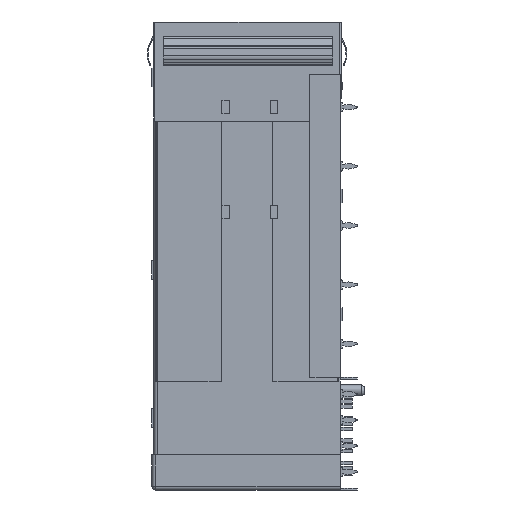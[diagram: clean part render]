
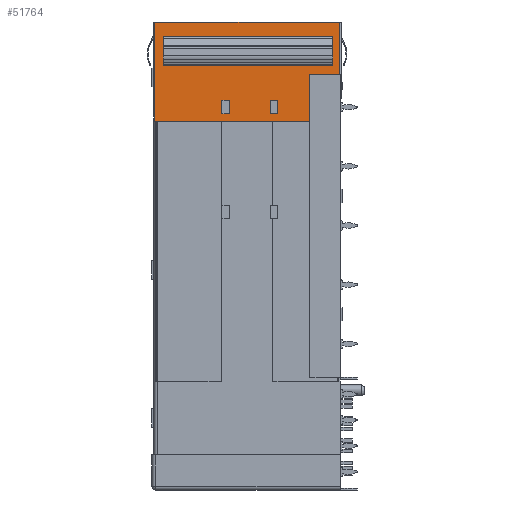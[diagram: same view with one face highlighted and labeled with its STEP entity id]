
A CAD part, left-side view. The second image highlights one B-rep face of the part: STEP entity #51764.
In plain terms, the highlighted planar face has unit normal (-1, 0, 0).
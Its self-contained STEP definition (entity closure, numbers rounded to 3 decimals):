
#845 = CARTESIAN_POINT ( 'NONE',  ( -43., 0.1, -7.1 ) ) ;
#1525 = ORIENTED_EDGE ( 'NONE', *, *, #111672, .T. ) ;
#2620 = LINE ( 'NONE', #36222, #83627 ) ;
#3382 = CARTESIAN_POINT ( 'NONE',  ( -43., 1.05, -1.9 ) ) ;
#4462 = LINE ( 'NONE', #64680, #29182 ) ;
#5061 = CARTESIAN_POINT ( 'NONE',  ( -43., 8.45, -12.4 ) ) ;
#6585 = CARTESIAN_POINT ( 'NONE',  ( -43., 0.1, 0. ) ) ;
#6624 = CARTESIAN_POINT ( 'NONE',  ( -43., 8.45, 0. ) ) ;
#8765 = LINE ( 'NONE', #3382, #117919 ) ;
#9054 = VECTOR ( 'NONE', #136932, 1000. ) ;
#9851 = CARTESIAN_POINT ( 'NONE',  ( -43., 1.05, -2.181 ) ) ;
#10262 = LINE ( 'NONE', #32293, #94586 ) ;
#10356 = DIRECTION ( 'NONE',  ( 0., 0., -1. ) ) ;
#10371 = CARTESIAN_POINT ( 'NONE',  ( -43., 0., -12.4 ) ) ;
#10407 = ORIENTED_EDGE ( 'NONE', *, *, #16029, .T. ) ;
#10843 = VECTOR ( 'NONE', #56871, 1000. ) ;
#11396 = VECTOR ( 'NONE', #105647, 1000. ) ;
#11397 = LINE ( 'NONE', #114168, #60978 ) ;
#11990 = DIRECTION ( 'NONE',  ( 0., 0., -1. ) ) ;
#13822 = LINE ( 'NONE', #10371, #66718 ) ;
#14848 = CARTESIAN_POINT ( 'NONE',  ( -43., 0., -10.6 ) ) ;
#15446 = VERTEX_POINT ( 'NONE', #6585 ) ;
#16029 = EDGE_CURVE ( 'NONE', #133254, #38461, #11397, .T. ) ;
#16864 = DIRECTION ( 'NONE',  ( 0., 0., 1. ) ) ;
#17159 = VERTEX_POINT ( 'NONE', #133704 ) ;
#17256 = DIRECTION ( 'NONE',  ( 0., 0., -1. ) ) ;
#18559 = ORIENTED_EDGE ( 'NONE', *, *, #61867, .T. ) ;
#19581 = EDGE_CURVE ( 'NONE', #26373, #125417, #2620, .T. ) ;
#19903 = EDGE_CURVE ( 'NONE', #15446, #133254, #47158, .T. ) ;
#20134 = EDGE_CURVE ( 'NONE', #136327, #17159, #98331, .T. ) ;
#20731 = FACE_BOUND ( 'NONE', #45606, .T. ) ;
#21011 = DIRECTION ( 'NONE',  ( 0., 1., 0. ) ) ;
#21259 = EDGE_CURVE ( 'NONE', #17159, #71016, #27125, .T. ) ;
#21381 = EDGE_CURVE ( 'NONE', #41201, #39341, #88297, .T. ) ;
#22117 = LINE ( 'NONE', #136570, #131206 ) ;
#22359 = ORIENTED_EDGE ( 'NONE', *, *, #86612, .T. ) ;
#22403 = VECTOR ( 'NONE', #62986, 1000. ) ;
#22708 = CARTESIAN_POINT ( 'NONE',  ( -43., 25.1, -13.4 ) ) ;
#25443 = DIRECTION ( 'NONE',  ( 0., -1., 0. ) ) ;
#26373 = VERTEX_POINT ( 'NONE', #34627 ) ;
#27125 = LINE ( 'NONE', #6624, #80055 ) ;
#29182 = VECTOR ( 'NONE', #11990, 1000. ) ;
#29653 = CARTESIAN_POINT ( 'NONE',  ( -43., 0., -10.6 ) ) ;
#30358 = ORIENTED_EDGE ( 'NONE', *, *, #116990, .T. ) ;
#31453 = AXIS2_PLACEMENT_3D ( 'NONE', #62587, #73654, #10356 ) ;
#31518 = CARTESIAN_POINT ( 'NONE',  ( -43., 25.3, 0. ) ) ;
#32156 = VERTEX_POINT ( 'NONE', #36739 ) ;
#32293 = CARTESIAN_POINT ( 'NONE',  ( -43., 25.2, -13.4 ) ) ;
#32389 = LINE ( 'NONE', #61759, #67179 ) ;
#32999 = LINE ( 'NONE', #69549, #82613 ) ;
#34627 = CARTESIAN_POINT ( 'NONE',  ( -43., 1.05, -1.9 ) ) ;
#36222 = CARTESIAN_POINT ( 'NONE',  ( -43., 1.05, -1.9 ) ) ;
#36532 = CARTESIAN_POINT ( 'NONE',  ( -43., 4.1, 0. ) ) ;
#36739 = CARTESIAN_POINT ( 'NONE',  ( -43., 15., -12.4 ) ) ;
#38461 = VERTEX_POINT ( 'NONE', #22708 ) ;
#39341 = VERTEX_POINT ( 'NONE', #114453 ) ;
#39470 = LINE ( 'NONE', #73751, #11396 ) ;
#40812 = CARTESIAN_POINT ( 'NONE',  ( -43., 0., -7.1 ) ) ;
#41201 = VERTEX_POINT ( 'NONE', #58591 ) ;
#45009 = ORIENTED_EDGE ( 'NONE', *, *, #62856, .T. ) ;
#45606 = EDGE_LOOP ( 'NONE', ( #18559, #119554, #101409, #101597 ) ) ;
#46248 = CARTESIAN_POINT ( 'NONE',  ( -43., 0., -12.4 ) ) ;
#46884 = DIRECTION ( 'NONE',  ( 0., 1., 0. ) ) ;
#47158 = LINE ( 'NONE', #31518, #22403 ) ;
#47312 = VERTEX_POINT ( 'NONE', #845 ) ;
#49009 = CARTESIAN_POINT ( 'NONE',  ( -43., 23.95, -2.181 ) ) ;
#49399 = EDGE_CURVE ( 'NONE', #47312, #15446, #32999, .T. ) ;
#51424 = DIRECTION ( 'NONE',  ( 0., -1., 0. ) ) ;
#51764 = ADVANCED_FACE ( 'NONE', ( #20731, #73618, #105046, #80232 ), #52383, .F. ) ;
#52383 = PLANE ( 'NONE',  #31453 ) ;
#52751 = VERTEX_POINT ( 'NONE', #79815 ) ;
#56871 = DIRECTION ( 'NONE',  ( 0., 1., 0. ) ) ;
#57815 = DIRECTION ( 'NONE',  ( 0., 0., 1. ) ) ;
#58591 = CARTESIAN_POINT ( 'NONE',  ( -43., 16., -10.6 ) ) ;
#59645 = ORIENTED_EDGE ( 'NONE', *, *, #19581, .F. ) ;
#60084 = ORIENTED_EDGE ( 'NONE', *, *, #19903, .T. ) ;
#60176 = VECTOR ( 'NONE', #72199, 1000. ) ;
#60910 = EDGE_CURVE ( 'NONE', #74747, #47312, #74058, .T. ) ;
#60978 = VECTOR ( 'NONE', #60987, 1000. ) ;
#60987 = DIRECTION ( 'NONE',  ( 0., 0., -1. ) ) ;
#61759 = CARTESIAN_POINT ( 'NONE',  ( -43., 9.45, 0. ) ) ;
#61867 = EDGE_CURVE ( 'NONE', #52751, #136327, #32389, .T. ) ;
#62587 = CARTESIAN_POINT ( 'NONE',  ( -43., 0., 0. ) ) ;
#62724 = ORIENTED_EDGE ( 'NONE', *, *, #21381, .T. ) ;
#62856 = EDGE_CURVE ( 'NONE', #32156, #80962, #95175, .T. ) ;
#62986 = DIRECTION ( 'NONE',  ( 0., 1., 0. ) ) ;
#63477 = ORIENTED_EDGE ( 'NONE', *, *, #68139, .T. ) ;
#64680 = CARTESIAN_POINT ( 'NONE',  ( -43., 15., 0. ) ) ;
#66718 = VECTOR ( 'NONE', #21011, 1000. ) ;
#67179 = VECTOR ( 'NONE', #135727, 1000. ) ;
#68139 = EDGE_CURVE ( 'NONE', #105364, #103597, #22117, .T. ) ;
#68606 = VECTOR ( 'NONE', #57815, 1000. ) ;
#69549 = CARTESIAN_POINT ( 'NONE',  ( -43., 0.1, 0. ) ) ;
#71016 = VERTEX_POINT ( 'NONE', #5061 ) ;
#72199 = DIRECTION ( 'NONE',  ( 0., -1., 0. ) ) ;
#73552 = VECTOR ( 'NONE', #25443, 1000. ) ;
#73618 = FACE_BOUND ( 'NONE', #100249, .T. ) ;
#73654 = DIRECTION ( 'NONE',  ( 1., 0., 0. ) ) ;
#73751 = CARTESIAN_POINT ( 'NONE',  ( -43., 23.95, -1.9 ) ) ;
#74058 = LINE ( 'NONE', #40812, #126963 ) ;
#74747 = VERTEX_POINT ( 'NONE', #87540 ) ;
#76917 = EDGE_CURVE ( 'NONE', #80962, #41201, #93370, .T. ) ;
#79218 = EDGE_LOOP ( 'NONE', ( #22359, #91198, #109363, #60084, #10407, #135911 ) ) ;
#79815 = CARTESIAN_POINT ( 'NONE',  ( -43., 9.45, -12.4 ) ) ;
#80055 = VECTOR ( 'NONE', #17256, 1000. ) ;
#80232 = FACE_OUTER_BOUND ( 'NONE', #79218, .T. ) ;
#80962 = VERTEX_POINT ( 'NONE', #131294 ) ;
#82613 = VECTOR ( 'NONE', #16864, 1000. ) ;
#83627 = VECTOR ( 'NONE', #46884, 1000. ) ;
#86612 = EDGE_CURVE ( 'NONE', #96497, #74747, #96704, .T. ) ;
#87540 = CARTESIAN_POINT ( 'NONE',  ( -43., 4.1, -7.1 ) ) ;
#87930 = DIRECTION ( 'NONE',  ( 0., 0., -1. ) ) ;
#88297 = LINE ( 'NONE', #29653, #60176 ) ;
#89500 = CARTESIAN_POINT ( 'NONE',  ( -43., 4.1, -13.4 ) ) ;
#91198 = ORIENTED_EDGE ( 'NONE', *, *, #60910, .T. ) ;
#92463 = CARTESIAN_POINT ( 'NONE',  ( -43., 9.45, -10.6 ) ) ;
#92893 = EDGE_CURVE ( 'NONE', #125417, #103597, #39470, .T. ) ;
#93370 = LINE ( 'NONE', #115643, #9054 ) ;
#94586 = VECTOR ( 'NONE', #116898, 1000. ) ;
#95175 = LINE ( 'NONE', #46248, #10843 ) ;
#96497 = VERTEX_POINT ( 'NONE', #89500 ) ;
#96704 = LINE ( 'NONE', #36532, #68606 ) ;
#98331 = LINE ( 'NONE', #14848, #73552 ) ;
#100249 = EDGE_LOOP ( 'NONE', ( #113427, #62724, #1525, #45009 ) ) ;
#101409 = ORIENTED_EDGE ( 'NONE', *, *, #21259, .T. ) ;
#101597 = ORIENTED_EDGE ( 'NONE', *, *, #116770, .T. ) ;
#103597 = VERTEX_POINT ( 'NONE', #49009 ) ;
#103861 = EDGE_CURVE ( 'NONE', #38461, #96497, #10262, .T. ) ;
#105046 = FACE_BOUND ( 'NONE', #121849, .T. ) ;
#105098 = DIRECTION ( 'NONE',  ( 0., 1., 0. ) ) ;
#105364 = VERTEX_POINT ( 'NONE', #9851 ) ;
#105647 = DIRECTION ( 'NONE',  ( 0., 0., -1. ) ) ;
#109105 = CARTESIAN_POINT ( 'NONE',  ( -43., 25.1, 0. ) ) ;
#109363 = ORIENTED_EDGE ( 'NONE', *, *, #49399, .T. ) ;
#111672 = EDGE_CURVE ( 'NONE', #39341, #32156, #4462, .T. ) ;
#113427 = ORIENTED_EDGE ( 'NONE', *, *, #76917, .T. ) ;
#114168 = CARTESIAN_POINT ( 'NONE',  ( -43., 25.1, 0. ) ) ;
#114453 = CARTESIAN_POINT ( 'NONE',  ( -43., 15., -10.6 ) ) ;
#115643 = CARTESIAN_POINT ( 'NONE',  ( -43., 16., 0. ) ) ;
#116770 = EDGE_CURVE ( 'NONE', #71016, #52751, #13822, .T. ) ;
#116898 = DIRECTION ( 'NONE',  ( 0., -1., 0. ) ) ;
#116990 = EDGE_CURVE ( 'NONE', #26373, #105364, #8765, .T. ) ;
#117491 = ORIENTED_EDGE ( 'NONE', *, *, #92893, .F. ) ;
#117919 = VECTOR ( 'NONE', #87930, 1000. ) ;
#119554 = ORIENTED_EDGE ( 'NONE', *, *, #20134, .T. ) ;
#121849 = EDGE_LOOP ( 'NONE', ( #59645, #30358, #63477, #117491 ) ) ;
#125417 = VERTEX_POINT ( 'NONE', #127739 ) ;
#126963 = VECTOR ( 'NONE', #51424, 1000. ) ;
#127739 = CARTESIAN_POINT ( 'NONE',  ( -43., 23.95, -1.9 ) ) ;
#131206 = VECTOR ( 'NONE', #105098, 1000. ) ;
#131294 = CARTESIAN_POINT ( 'NONE',  ( -43., 16., -12.4 ) ) ;
#133254 = VERTEX_POINT ( 'NONE', #109105 ) ;
#133704 = CARTESIAN_POINT ( 'NONE',  ( -43., 8.45, -10.6 ) ) ;
#135727 = DIRECTION ( 'NONE',  ( 0., 0., 1. ) ) ;
#135911 = ORIENTED_EDGE ( 'NONE', *, *, #103861, .T. ) ;
#136327 = VERTEX_POINT ( 'NONE', #92463 ) ;
#136570 = CARTESIAN_POINT ( 'NONE',  ( -43., 1.05, -2.181 ) ) ;
#136932 = DIRECTION ( 'NONE',  ( 0., 0., 1. ) ) ;
